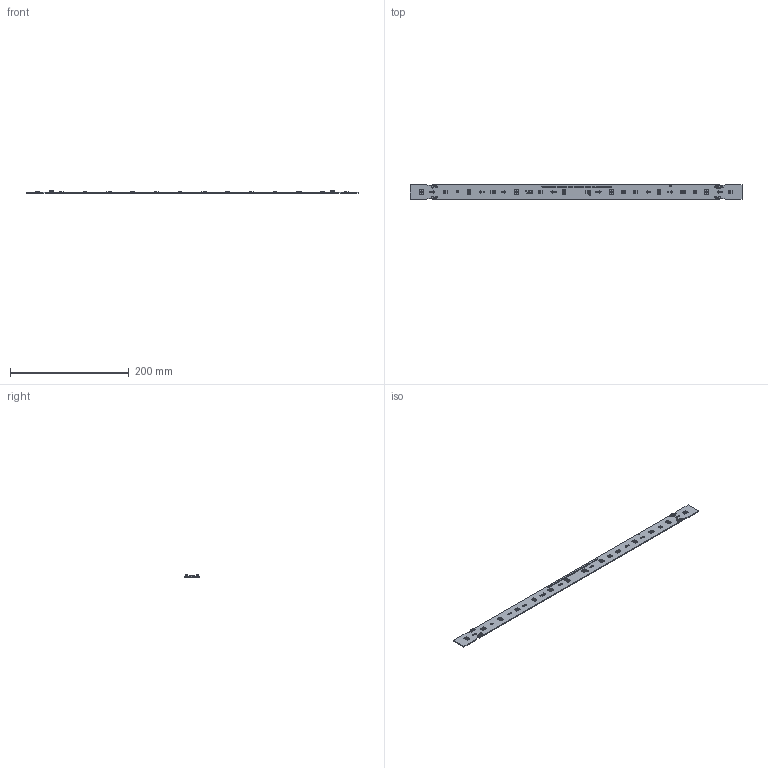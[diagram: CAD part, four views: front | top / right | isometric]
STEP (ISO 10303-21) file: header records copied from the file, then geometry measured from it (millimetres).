
FILE_DESCRIPTION((''),'2;1');
FILE_NAME('ASM-SKLOP_LOGO-CONECTORI-B-ETA_ASM','2021-12-01T12:01:31',('msavic'),(''),'CREO PARAMETRIC BY PTC INC, 2016510','CREO PARAMETRIC BY PTC INC, 2016510','');
FILE_SCHEMA(('AUTOMOTIVE_DESIGN { 1 0 10303 214 1 1 1 1 }'));
Length unit declared in the file: millimetre
Products named in the file (15): BAZA_BLACK_S-N-S_WU-M-685; GERMANY__TXT0; BUILT-IN_LED_MODULE-5MM004_2_6_; BUILT-IN_LED_MODULE-5MM003_2_5_; BUILT-IN_LED_MODULE-5MM002_2_4_; BUILT-IN_LED_MODULE-5MM001_2_5_; VSO-LOGO-5MM_3_5_1; VSO-LOGO-5MM001_2_1_4_1; CE-ZEICHEN-6MM_2_6_1_1; CE-ZEICHEN-6MM001_2_7_1_1; UKCA; 3DFILE_STW8A2PD_ASM_3_1_1_1_3; 2065-101_998-403_9; MCA_1206; ASM-SKLOP_LOGO-CONECTORI-B-ETA_ASM
Assembly tree (74 placements, depth 2):
  ASM-SKLOP_LOGO-CONECTORI-B-ETA_ASM
    BAZA_BLACK_S-N-S_WU-M-685
    GERMANY__TXT0
    BUILT-IN_LED_MODULE-5MM004_2_6_
    BUILT-IN_LED_MODULE-5MM003_2_5_
    BUILT-IN_LED_MODULE-5MM002_2_4_
    BUILT-IN_LED_MODULE-5MM001_2_5_  x2
    VSO-LOGO-5MM_3_5_1
    VSO-LOGO-5MM001_2_1_4_1
    CE-ZEICHEN-6MM_2_6_1_1
    CE-ZEICHEN-6MM001_2_7_1_1
    UKCA
    3DFILE_STW8A2PD_ASM_3_1_1_1_3  x56
    2065-101_998-403_9  x4
    MCA_1206  x2
Bounding box: 559 x 25 x 4.3 mm (x, y, z)
Volume: 22146.4 mm3; surface area: 31993.4 mm2
Topology: 21 solids, 77 shells, 6097 faces, 19877 edges, 14180 vertices
Faces by surface type: plane 4685, cylinder 1402, extrusion 10
Entity records: 55775 total; most frequent: CARTESIAN_POINT 9565, ORIENTED_EDGE 8858, DIRECTION 7172, EDGE_CURVE 4429, VECTOR 3735, LINE 3725, VERTEX_POINT 3647, AXIS2_PLACEMENT_3D 1696
